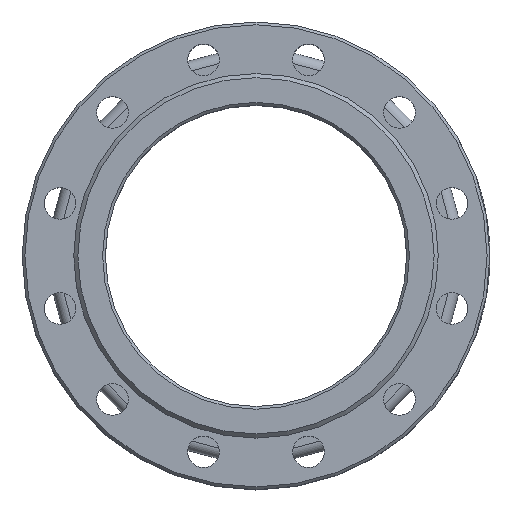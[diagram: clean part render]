
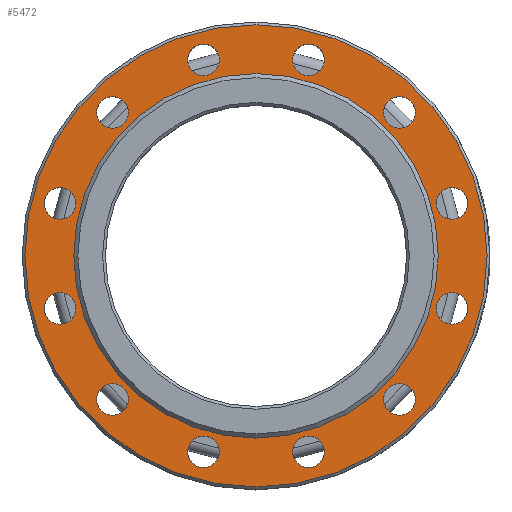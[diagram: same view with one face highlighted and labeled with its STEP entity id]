
A CAD part, top view. The second image highlights one B-rep face of the part: STEP entity #5472.
In plain terms, the highlighted planar face has unit normal (0, 0, 1).
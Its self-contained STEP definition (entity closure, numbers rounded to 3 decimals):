
#175=FACE_BOUND('',#994,.T.);
#176=FACE_BOUND('',#995,.T.);
#177=FACE_BOUND('',#996,.T.);
#178=FACE_BOUND('',#997,.T.);
#179=FACE_BOUND('',#998,.T.);
#180=FACE_BOUND('',#999,.T.);
#181=FACE_BOUND('',#1000,.T.);
#182=FACE_BOUND('',#1001,.T.);
#183=FACE_BOUND('',#1002,.T.);
#184=FACE_BOUND('',#1003,.T.);
#185=FACE_BOUND('',#1004,.T.);
#186=FACE_BOUND('',#1005,.T.);
#187=FACE_BOUND('',#1006,.T.);
#414=PLANE('',#5875);
#661=FACE_OUTER_BOUND('',#993,.T.);
#993=EDGE_LOOP('',(#4601));
#994=EDGE_LOOP('',(#4602));
#995=EDGE_LOOP('',(#4603));
#996=EDGE_LOOP('',(#4604));
#997=EDGE_LOOP('',(#4605));
#998=EDGE_LOOP('',(#4606));
#999=EDGE_LOOP('',(#4607));
#1000=EDGE_LOOP('',(#4608));
#1001=EDGE_LOOP('',(#4609));
#1002=EDGE_LOOP('',(#4610));
#1003=EDGE_LOOP('',(#4611));
#1004=EDGE_LOOP('',(#4612));
#1005=EDGE_LOOP('',(#4613));
#1006=EDGE_LOOP('',(#4614));
#1441=CIRCLE('',#5874,168.);
#1442=CIRCLE('',#5876,11.5);
#1443=CIRCLE('',#5877,11.5);
#1444=CIRCLE('',#5878,11.5);
#1445=CIRCLE('',#5879,132.5);
#1446=CIRCLE('',#5880,11.5);
#1447=CIRCLE('',#5881,11.5);
#1448=CIRCLE('',#5882,11.5);
#1449=CIRCLE('',#5883,11.5);
#1450=CIRCLE('',#5884,11.5);
#1451=CIRCLE('',#5885,11.5);
#1452=CIRCLE('',#5886,11.5);
#1453=CIRCLE('',#5887,11.5);
#1454=CIRCLE('',#5888,11.5);
#2561=VERTEX_POINT('',#11908);
#2562=VERTEX_POINT('',#11912);
#2563=VERTEX_POINT('',#11914);
#2564=VERTEX_POINT('',#11916);
#2565=VERTEX_POINT('',#11918);
#2566=VERTEX_POINT('',#11920);
#2567=VERTEX_POINT('',#11922);
#2568=VERTEX_POINT('',#11924);
#2569=VERTEX_POINT('',#11926);
#2570=VERTEX_POINT('',#11928);
#2571=VERTEX_POINT('',#11930);
#2572=VERTEX_POINT('',#11932);
#2573=VERTEX_POINT('',#11934);
#2574=VERTEX_POINT('',#11936);
#3255=EDGE_CURVE('',#2561,#2561,#1441,.T.);
#3256=EDGE_CURVE('',#2562,#2562,#1442,.T.);
#3257=EDGE_CURVE('',#2563,#2563,#1443,.T.);
#3258=EDGE_CURVE('',#2564,#2564,#1444,.T.);
#3259=EDGE_CURVE('',#2565,#2565,#1445,.T.);
#3260=EDGE_CURVE('',#2566,#2566,#1446,.T.);
#3261=EDGE_CURVE('',#2567,#2567,#1447,.T.);
#3262=EDGE_CURVE('',#2568,#2568,#1448,.T.);
#3263=EDGE_CURVE('',#2569,#2569,#1449,.T.);
#3264=EDGE_CURVE('',#2570,#2570,#1450,.T.);
#3265=EDGE_CURVE('',#2571,#2571,#1451,.T.);
#3266=EDGE_CURVE('',#2572,#2572,#1452,.T.);
#3267=EDGE_CURVE('',#2573,#2573,#1453,.T.);
#3268=EDGE_CURVE('',#2574,#2574,#1454,.T.);
#4601=ORIENTED_EDGE('',*,*,#3255,.T.);
#4602=ORIENTED_EDGE('',*,*,#3256,.T.);
#4603=ORIENTED_EDGE('',*,*,#3257,.T.);
#4604=ORIENTED_EDGE('',*,*,#3258,.T.);
#4605=ORIENTED_EDGE('',*,*,#3259,.T.);
#4606=ORIENTED_EDGE('',*,*,#3260,.T.);
#4607=ORIENTED_EDGE('',*,*,#3261,.T.);
#4608=ORIENTED_EDGE('',*,*,#3262,.T.);
#4609=ORIENTED_EDGE('',*,*,#3263,.T.);
#4610=ORIENTED_EDGE('',*,*,#3264,.T.);
#4611=ORIENTED_EDGE('',*,*,#3265,.T.);
#4612=ORIENTED_EDGE('',*,*,#3266,.T.);
#4613=ORIENTED_EDGE('',*,*,#3267,.T.);
#4614=ORIENTED_EDGE('',*,*,#3268,.T.);
#5472=ADVANCED_FACE('',(#661,#175,#176,#177,#178,#179,#180,#181,#182,#183,
#184,#185,#186,#187),#414,.F.);
#5874=AXIS2_PLACEMENT_3D('',#11910,#6950,#6951);
#5875=AXIS2_PLACEMENT_3D('',#11911,#6952,#6953);
#5876=AXIS2_PLACEMENT_3D('',#11913,#6954,#6955);
#5877=AXIS2_PLACEMENT_3D('',#11915,#6956,#6957);
#5878=AXIS2_PLACEMENT_3D('',#11917,#6958,#6959);
#5879=AXIS2_PLACEMENT_3D('',#11919,#6960,#6961);
#5880=AXIS2_PLACEMENT_3D('',#11921,#6962,#6963);
#5881=AXIS2_PLACEMENT_3D('',#11923,#6964,#6965);
#5882=AXIS2_PLACEMENT_3D('',#11925,#6966,#6967);
#5883=AXIS2_PLACEMENT_3D('',#11927,#6968,#6969);
#5884=AXIS2_PLACEMENT_3D('',#11929,#6970,#6971);
#5885=AXIS2_PLACEMENT_3D('',#11931,#6972,#6973);
#5886=AXIS2_PLACEMENT_3D('',#11933,#6974,#6975);
#5887=AXIS2_PLACEMENT_3D('',#11935,#6976,#6977);
#5888=AXIS2_PLACEMENT_3D('',#11937,#6978,#6979);
#6950=DIRECTION('center_axis',(0.,0.,1.));
#6951=DIRECTION('ref_axis',(0.,1.,0.));
#6952=DIRECTION('center_axis',(0.,0.,-1.));
#6953=DIRECTION('ref_axis',(-1.,0.,0.));
#6954=DIRECTION('center_axis',(0.,0.,-1.));
#6955=DIRECTION('ref_axis',(-1.,0.,0.));
#6956=DIRECTION('center_axis',(0.,0.,-1.));
#6957=DIRECTION('ref_axis',(-1.,0.,0.));
#6958=DIRECTION('center_axis',(0.,0.,-1.));
#6959=DIRECTION('ref_axis',(-1.,0.,0.));
#6960=DIRECTION('center_axis',(0.,0.,-1.));
#6961=DIRECTION('ref_axis',(1.,0.,0.));
#6962=DIRECTION('center_axis',(0.,0.,-1.));
#6963=DIRECTION('ref_axis',(-1.,0.,0.));
#6964=DIRECTION('center_axis',(0.,0.,-1.));
#6965=DIRECTION('ref_axis',(-1.,0.,0.));
#6966=DIRECTION('center_axis',(0.,0.,-1.));
#6967=DIRECTION('ref_axis',(-1.,0.,0.));
#6968=DIRECTION('center_axis',(0.,0.,-1.));
#6969=DIRECTION('ref_axis',(-1.,0.,0.));
#6970=DIRECTION('center_axis',(0.,0.,-1.));
#6971=DIRECTION('ref_axis',(-1.,0.,0.));
#6972=DIRECTION('center_axis',(0.,0.,-1.));
#6973=DIRECTION('ref_axis',(-1.,0.,0.));
#6974=DIRECTION('center_axis',(0.,0.,-1.));
#6975=DIRECTION('ref_axis',(-1.,0.,0.));
#6976=DIRECTION('center_axis',(0.,0.,-1.));
#6977=DIRECTION('ref_axis',(-1.,0.,0.));
#6978=DIRECTION('center_axis',(0.,0.,-1.));
#6979=DIRECTION('ref_axis',(-1.,0.,0.));
#11908=CARTESIAN_POINT('',(0.,-168.,67.));
#11910=CARTESIAN_POINT('Origin',(0.,0.,67.));
#11911=CARTESIAN_POINT('Origin',(0.,0.,67.));
#11912=CARTESIAN_POINT('',(49.676,142.474,67.));
#11913=CARTESIAN_POINT('Origin',(38.176,142.474,67.));
#11914=CARTESIAN_POINT('',(-26.676,142.474,67.));
#11915=CARTESIAN_POINT('Origin',(-38.176,142.474,67.));
#11916=CARTESIAN_POINT('',(-92.798,104.298,67.));
#11917=CARTESIAN_POINT('Origin',(-104.298,104.298,67.));
#11918=CARTESIAN_POINT('',(-132.5,0.,67.));
#11919=CARTESIAN_POINT('Origin',(0.,0.,67.));
#11920=CARTESIAN_POINT('',(-130.974,38.176,67.));
#11921=CARTESIAN_POINT('Origin',(-142.474,38.176,67.));
#11922=CARTESIAN_POINT('',(153.974,-38.176,67.));
#11923=CARTESIAN_POINT('Origin',(142.474,-38.176,67.));
#11924=CARTESIAN_POINT('',(153.974,38.176,67.));
#11925=CARTESIAN_POINT('Origin',(142.474,38.176,67.));
#11926=CARTESIAN_POINT('',(-26.676,-142.474,67.));
#11927=CARTESIAN_POINT('Origin',(-38.176,-142.474,67.));
#11928=CARTESIAN_POINT('',(-130.974,-38.176,67.));
#11929=CARTESIAN_POINT('Origin',(-142.474,-38.176,67.));
#11930=CARTESIAN_POINT('',(115.798,-104.298,67.));
#11931=CARTESIAN_POINT('Origin',(104.298,-104.298,67.));
#11932=CARTESIAN_POINT('',(115.798,104.298,67.));
#11933=CARTESIAN_POINT('Origin',(104.298,104.298,67.));
#11934=CARTESIAN_POINT('',(49.676,-142.474,67.));
#11935=CARTESIAN_POINT('Origin',(38.176,-142.474,67.));
#11936=CARTESIAN_POINT('',(-92.798,-104.298,67.));
#11937=CARTESIAN_POINT('Origin',(-104.298,-104.298,67.));
